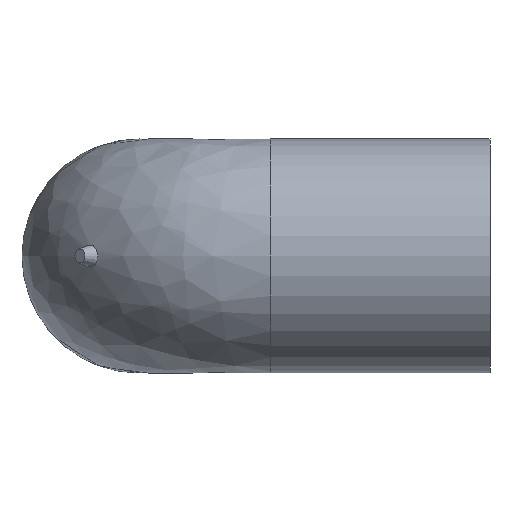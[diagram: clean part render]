
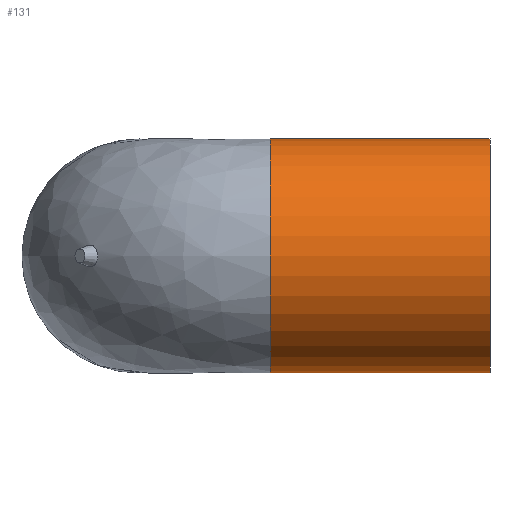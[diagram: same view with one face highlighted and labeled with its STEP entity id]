
A CAD part, left-side view. The second image highlights one B-rep face of the part: STEP entity #131.
In plain terms, the highlighted cylindrical face has radius 25 mm (diameter 50 mm), a full revolution.
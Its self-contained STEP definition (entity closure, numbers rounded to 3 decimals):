
#18=CYLINDRICAL_SURFACE($,#150,25.);
#26=FACE_BOUND($,#60,.T.);
#38=CIRCLE($,#149,25.);
#39=CIRCLE($,#151,25.);
#47=FACE_OUTER_BOUND($,#59,.T.);
#59=EDGE_LOOP($,(#117));
#60=EDGE_LOOP($,(#118));
#79=VERTEX_POINT($,#993);
#80=VERTEX_POINT($,#1002);
#93=EDGE_CURVE($,#79,#79,#38,.T.);
#94=EDGE_CURVE($,#80,#80,#39,.T.);
#117=ORIENTED_EDGE($,*,*,#94,.F.);
#118=ORIENTED_EDGE($,*,*,#93,.T.);
#131=ADVANCED_FACE($,(#47,#26),#18,.T.);
#149=AXIS2_PLACEMENT_3D($,#1000,#180,#181);
#150=AXIS2_PLACEMENT_3D($,#1001,#182,#183);
#151=AXIS2_PLACEMENT_3D($,#1003,#184,#185);
#180=DIRECTION('center_axis',(0.,-1.,0.));
#181=DIRECTION('ref_axis',(1.,0.,0.));
#182=DIRECTION('center_axis',(0.,1.,0.));
#183=DIRECTION('ref_axis',(1.,0.,0.));
#184=DIRECTION('center_axis',(0.,-1.,0.));
#185=DIRECTION('ref_axis',(1.,0.,0.));
#993=CARTESIAN_POINT('',(-25.,47.,0.));
#1000=CARTESIAN_POINT('Origin',(0.,47.,0.));
#1001=CARTESIAN_POINT('Origin',(0.,0.,0.));
#1002=CARTESIAN_POINT('',(-25.,0.,0.));
#1003=CARTESIAN_POINT('Origin',(0.,0.,0.));
